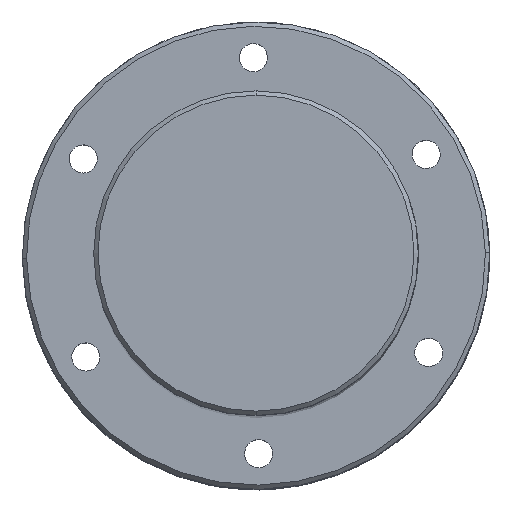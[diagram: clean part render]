
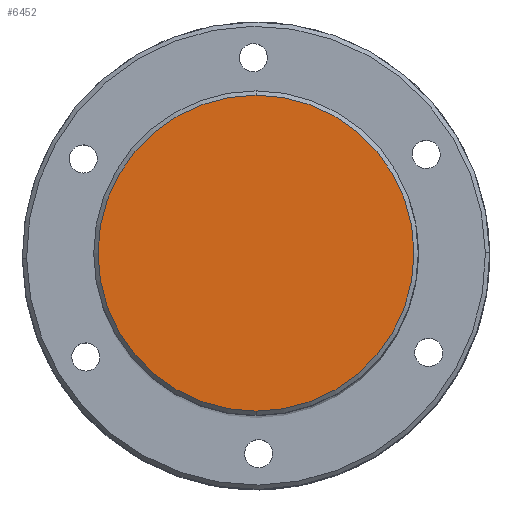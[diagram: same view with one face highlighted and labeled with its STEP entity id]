
A CAD part, top view. The second image highlights one B-rep face of the part: STEP entity #6452.
In plain terms, the highlighted planar face has unit normal (0, 0, 1) as drawn and (-1, 0, 0) by its records, which use the part's own axes.
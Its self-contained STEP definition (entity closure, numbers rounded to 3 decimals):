
#378 = DIRECTION ( 'NONE',  ( 0., 0., -1. ) ) ;
#3371 = VERTEX_POINT ( 'NONE', #15326 ) ;
#4983 = CIRCLE ( 'NONE', #11115, 36.5 ) ;
#6125 = FACE_OUTER_BOUND ( 'NONE', #11486, .T. ) ;
#6452 = ADVANCED_FACE ( 'NONE', ( #6125 ), #13644, .F. ) ;
#6796 = DIRECTION ( 'NONE',  ( 0., 0., -1. ) ) ;
#7944 = CARTESIAN_POINT ( 'NONE',  ( 0., 0., -36.5 ) ) ;
#8469 = ORIENTED_EDGE ( 'NONE', *, *, #9551, .T. ) ;
#9495 = AXIS2_PLACEMENT_3D ( 'NONE', #14231, #16865, #378 ) ;
#9551 = EDGE_CURVE ( 'NONE', #15401, #3371, #10055, .T. ) ;
#10055 = CIRCLE ( 'NONE', #9495, 36.5 ) ;
#10068 = DIRECTION ( 'NONE',  ( -1., 0., 0. ) ) ;
#10966 = EDGE_CURVE ( 'NONE', #3371, #15401, #4983, .T. ) ;
#11115 = AXIS2_PLACEMENT_3D ( 'NONE', #11658, #10068, #15481 ) ;
#11486 = EDGE_LOOP ( 'NONE', ( #8469, #12701 ) ) ;
#11658 = CARTESIAN_POINT ( 'NONE',  ( 0., 0., 0. ) ) ;
#12701 = ORIENTED_EDGE ( 'NONE', *, *, #10966, .T. ) ;
#13644 = PLANE ( 'NONE',  #14815 ) ;
#14231 = CARTESIAN_POINT ( 'NONE',  ( 0., 0., 0. ) ) ;
#14815 = AXIS2_PLACEMENT_3D ( 'NONE', #15005, #16368, #6796 ) ;
#15005 = CARTESIAN_POINT ( 'NONE',  ( 0., 0., 0. ) ) ;
#15326 = CARTESIAN_POINT ( 'NONE',  ( 0., 0., 36.5 ) ) ;
#15401 = VERTEX_POINT ( 'NONE', #7944 ) ;
#15481 = DIRECTION ( 'NONE',  ( 0., 0., -1. ) ) ;
#16368 = DIRECTION ( 'NONE',  ( 1., 0., 0. ) ) ;
#16865 = DIRECTION ( 'NONE',  ( -1., 0., 0. ) ) ;
